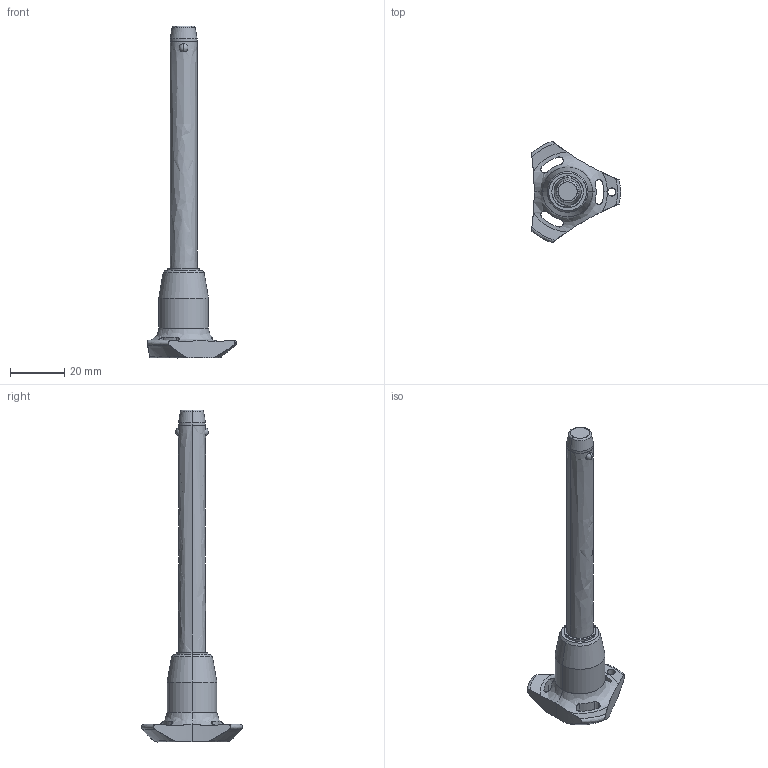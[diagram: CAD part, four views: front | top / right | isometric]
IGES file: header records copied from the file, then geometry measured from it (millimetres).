
Start section: SolidWorks IGES file using analytic representation for surfaces
Global section: file name: C:\Users\ianosborn\Desktop\33060_v2\33060.BK_v2_20240910_IGES\33060.W0854.igs; native system: SolidWorks 2019; preprocessor: SolidWorks 2019; author: IanOsborn; date: 240910.201318; units: millimetre
Bounding box: 33 x 37.51 x 122.9 mm (x, y, z)
Surface area: 6606.7 mm2 (no closed solid volume)
Topology: 0 solids, 0 shells, 68 faces, 1352 edges, 1345 vertices
Faces by surface type: revolution 52, bspline 16
